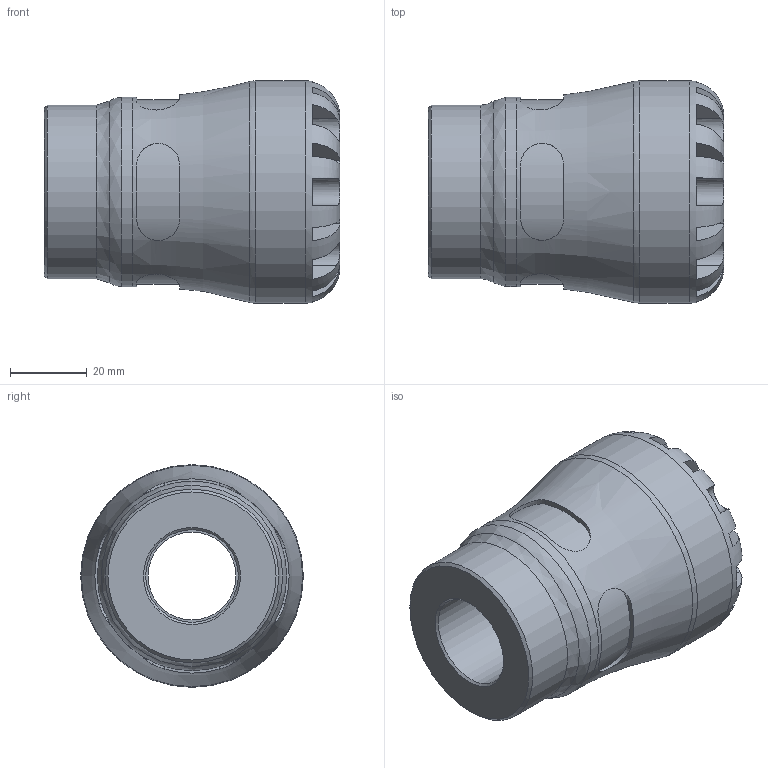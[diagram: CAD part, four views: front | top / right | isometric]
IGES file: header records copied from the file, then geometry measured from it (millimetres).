
Global section: file name: 100300032007_190300032007.ipt; native system: Autodesk Inventor 2015; preprocessor: unknown; author: KIM; date: 20170122.094944; units: millimetre
Bounding box: 77 x 58 x 58 mm (x, y, z)
Volume: 104700.3 mm3; surface area: 24241.3 mm2
Topology: 1 solids, 1 shells, 104 faces, 270 edges, 174 vertices
Faces by surface type: plane 61, revolution 27, cylinder 15, cone 1
Full cylindrical faces by diameter (mm): 45.24 x1, 49.3 x1, 58 x1
